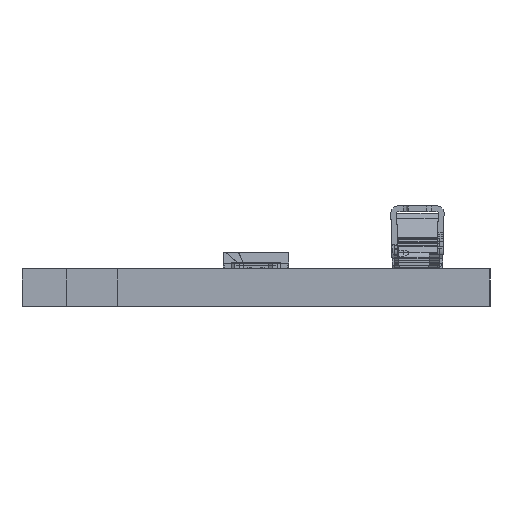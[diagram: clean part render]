
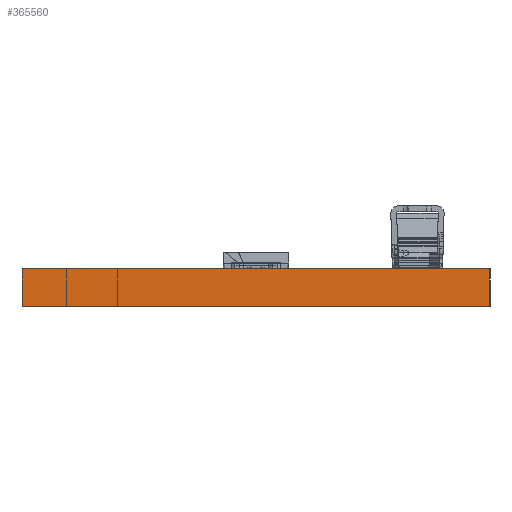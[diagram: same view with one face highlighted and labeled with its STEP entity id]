
A CAD part, left-side view. The second image highlights one B-rep face of the part: STEP entity #365560.
In plain terms, the highlighted planar face has unit normal (-1, 0, 0).
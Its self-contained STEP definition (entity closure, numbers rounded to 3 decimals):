
#334430=CARTESIAN_POINT('',(-83.975,42.357,0.));
#334440=DIRECTION('',(0.,1.,0.));
#334450=VECTOR('',#334440,0.039);
#334460=LINE('',#334430,#334450);
#334470=CARTESIAN_POINT('',(-83.975,42.357,0.));
#334480=VERTEX_POINT('',#334470);
#334490=CARTESIAN_POINT('',(-83.975,62.357,0.));
#334500=VERTEX_POINT('',#334490);
#334510=EDGE_CURVE('',#334480,#334500,#334460,.T.);
#343880=CARTESIAN_POINT('',(-83.975,42.357,-1.6));
#343890=VERTEX_POINT('',#343880);
#348000=CARTESIAN_POINT('',(-83.975,62.357,-1.6));
#348010=VERTEX_POINT('',#348000);
#348040=CARTESIAN_POINT('',(-83.975,42.357,-1.6));
#348050=DIRECTION('',(0.,1.,0.));
#348060=VECTOR('',#348050,0.039);
#348070=LINE('',#348040,#348060);
#348080=EDGE_CURVE('',#343890,#348010,#348070,.T.);
#353290=CARTESIAN_POINT('',(-83.975,42.357,0.));
#353300=DIRECTION('',(0.,0.,-1.));
#353310=VECTOR('',#353300,1.);
#353320=LINE('',#353290,#353310);
#353330=EDGE_CURVE('',#334480,#343890,#353320,.T.);
#365270=CARTESIAN_POINT('',(-83.975,62.357,0.));
#365280=DIRECTION('',(0.,0.,-1.));
#365290=VECTOR('',#365280,1.);
#365300=LINE('',#365270,#365290);
#365310=EDGE_CURVE('',#334500,#348010,#365300,.T.);
#365450=CARTESIAN_POINT('',(-83.975,42.357,0.));
#365460=DIRECTION('',(1.,0.,0.));
#365470=DIRECTION('',(0.,-1.,0.));
#365480=AXIS2_PLACEMENT_3D('',#365450,#365460,#365470);
#365490=PLANE('',#365480);
#365500=ORIENTED_EDGE('',*,*,#334510,.T.);
#365510=ORIENTED_EDGE('',*,*,#353330,.F.);
#365520=ORIENTED_EDGE('',*,*,#348080,.F.);
#365530=ORIENTED_EDGE('',*,*,#365310,.T.);
#365540=EDGE_LOOP('',(#365530,#365520,#365510,#365500));
#365550=FACE_OUTER_BOUND('',#365540,.T.);
#365560=ADVANCED_FACE('',(#365550),#365490,.F.);
